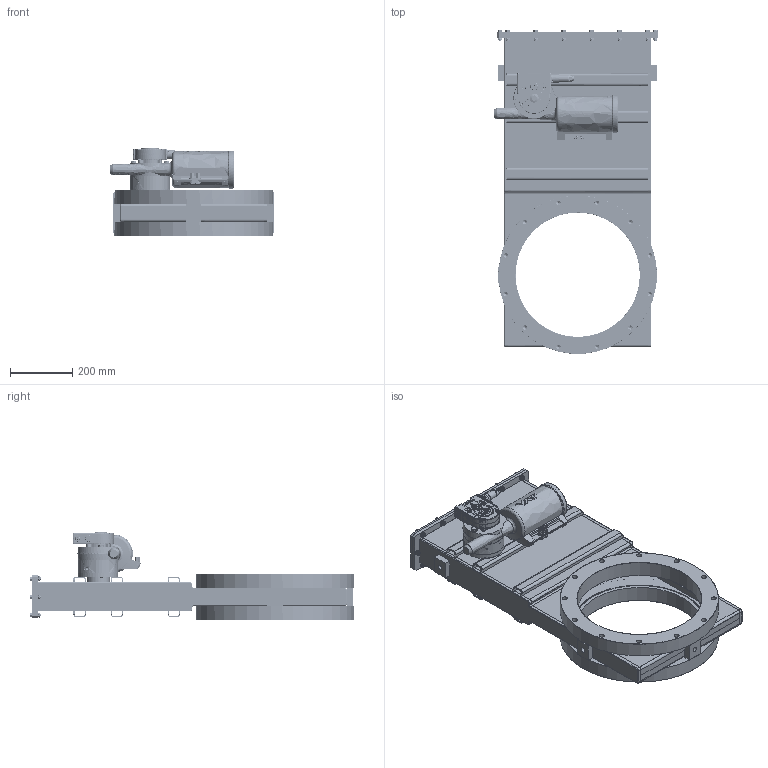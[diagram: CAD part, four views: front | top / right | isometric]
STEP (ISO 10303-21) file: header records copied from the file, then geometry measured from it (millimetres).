
FILE_DESCRIPTION((''),'2;1');
FILE_NAME('O:\MT\MT\Systeme\Cad\Datenexporte\www_vat_ch\203619.stp','2005-08-02T14:03:49',('User'),('SDRC'),'I-DEAS Master Series 9','UNIX','Yes');
FILE_SCHEMA(('CONFIG_CONTROL_DESIGN'));
Length unit declared in the file: millimetre
Assembly tree (113 placements, depth 0):
Bounding box: 530.75 x 1041.24 x 284.03 mm (x, y, z)
Volume: 14843477.6 mm3; surface area: 3671624.2 mm2
Topology: 155 solids, 155 shells, 3040 faces, 6739 edges, 4294 vertices
Faces by surface type: bspline 3040
Entity records: 63477 total; most frequent: CARTESIAN_POINT 32398, ORIENTED_EDGE 7820, EDGE_CURVE 3910, VERTEX_POINT 2510, EDGE_LOOP 2076, FACE_OUTER_BOUND 1693, ADVANCED_FACE 1693, QUASI_UNIFORM_CURVE 1111
